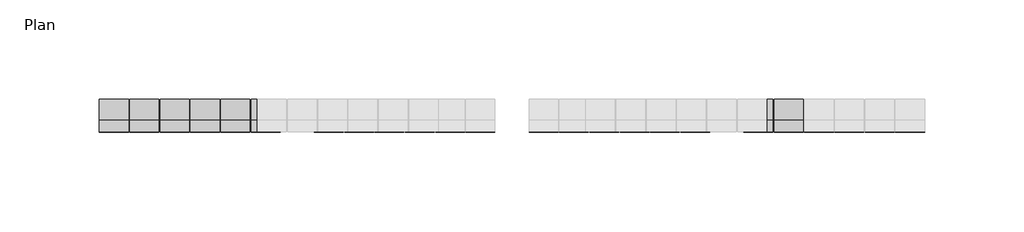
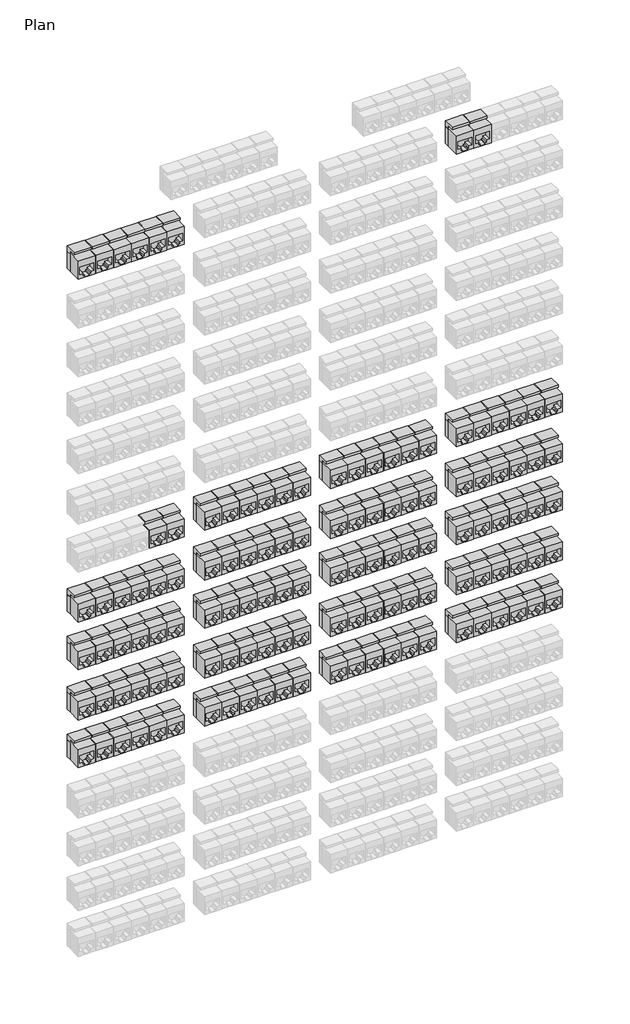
# One storey, part 2 of 3: 124 electric appliances.
"""IFC4 building model written with IfcOpenShell, lengths in millimetres."""

from ifc_helpers import new_model, si_unit, origin, place, context, project, spatial, transform, mapped, element, save
from components import cat_6_282648a7

model = new_model("IFC4")

# Units and contexts
model_context = context("Model", 3, world=origin())
ifc_project = project(units=[si_unit("LENGTHUNIT", "METRE", prefix="MILLI")], contexts=[model_context])

# Site, building, storey
site = spatial("IfcSite", under=ifc_project)
building = spatial("IfcBuilding", under=site)
storey = spatial("IfcBuildingStorey", under=building, Name="Plan", Elevation=0.0)

# Electric appliances
placement = place(None, origin())
cat_6_shape = cat_6_282648a7(model_context)
element("IfcElectricAppliance", 1, ObjectType="Data_Device-Network-Leviton-Connector-Copper-110_Style : CAT 6", at=placement, inside=storey, context=model_context, shape_type="MappedRepresentation", body=[
    mapped(cat_6_shape, transform((2653.114801, -458.5752001, 266.6170908), x_axis=(1.0, 0.0, 0.0), y_axis=(0.0, 0.0, 1.0), z_axis=(0.0, -1.0, 0.0))),
])
element("IfcElectricAppliance", 2, ObjectType="Data_Device-Network-Leviton-Connector-Copper-110_Style : CAT 6", at=placement, inside=storey, context=model_context, shape_type="MappedRepresentation", body=[
    mapped(cat_6_shape, transform((2668.354801, -458.5752001, 266.6170908), x_axis=(1.0, 0.0, 0.0), y_axis=(0.0, 0.0, 1.0), z_axis=(0.0, -1.0, 0.0))),
])
element("IfcElectricAppliance", 3, ObjectType="Data_Device-Network-Leviton-Connector-Copper-110_Style : CAT 6", at=placement, inside=storey, context=model_context, shape_type="MappedRepresentation", body=[
    mapped(cat_6_shape, transform((2700.104801, -458.5752001, 266.6170908), x_axis=(1.0, 0.0, 0.0), y_axis=(0.0, 0.0, 1.0), z_axis=(0.0, -1.0, 0.0))),
])
element("IfcElectricAppliance", 4, ObjectType="Data_Device-Network-Leviton-Connector-Copper-110_Style : CAT 6", at=placement, inside=storey, context=model_context, shape_type="MappedRepresentation", body=[
    mapped(cat_6_shape, transform((2715.344801, -458.5752001, 266.6170908), x_axis=(1.0, 0.0, 0.0), y_axis=(0.0, 0.0, 1.0), z_axis=(0.0, -1.0, 0.0))),
])
element("IfcElectricAppliance", 5, ObjectType="Data_Device-Network-Leviton-Connector-Copper-110_Style : CAT 6", at=placement, inside=storey, context=model_context, shape_type="MappedRepresentation", body=[
    mapped(cat_6_shape, transform((2730.584801, -458.5752001, 266.6170908), x_axis=(1.0, 0.0, 0.0), y_axis=(0.0, 0.0, 1.0), z_axis=(0.0, -1.0, 0.0))),
])
element("IfcElectricAppliance", 6, ObjectType="Data_Device-Network-Leviton-Connector-Copper-110_Style : CAT 6", at=placement, inside=storey, context=model_context, shape_type="MappedRepresentation", body=[
    mapped(cat_6_shape, transform((2745.824801, -458.5752001, 266.6170908), x_axis=(1.0, 0.0, 0.0), y_axis=(0.0, 0.0, 1.0), z_axis=(0.0, -1.0, 0.0))),
])
element("IfcElectricAppliance", 7, ObjectType="Data_Device-Network-Leviton-Connector-Copper-110_Style : CAT 6", at=placement, inside=storey, context=model_context, shape_type="MappedRepresentation", body=[
    mapped(cat_6_shape, transform((2761.064801, -458.5752001, 266.6170908), x_axis=(1.0, 0.0, 0.0), y_axis=(0.0, 0.0, 1.0), z_axis=(0.0, -1.0, 0.0))),
])
element("IfcElectricAppliance", 8, ObjectType="Data_Device-Network-Leviton-Connector-Copper-110_Style : CAT 6", at=placement, inside=storey, context=model_context, shape_type="MappedRepresentation", body=[
    mapped(cat_6_shape, transform((2776.304801, -458.5752001, 266.6170908), x_axis=(1.0, 0.0, 0.0), y_axis=(0.0, 0.0, 1.0), z_axis=(0.0, -1.0, 0.0))),
])
element("IfcElectricAppliance", 9, ObjectType="Data_Device-Network-Leviton-Connector-Copper-110_Style : CAT 6", at=placement, inside=storey, context=model_context, shape_type="MappedRepresentation", body=[
    mapped(cat_6_shape, transform((2808.054801, -458.5752001, 266.6170908), x_axis=(1.0, 0.0, 0.0), y_axis=(0.0, 0.0, 1.0), z_axis=(0.0, -1.0, 0.0))),
])
element("IfcElectricAppliance", 10, ObjectType="Data_Device-Network-Leviton-Connector-Copper-110_Style : CAT 6", at=placement, inside=storey, context=model_context, shape_type="MappedRepresentation", body=[
    mapped(cat_6_shape, transform((2838.534801, -458.5752001, 266.6170908), x_axis=(1.0, 0.0, 0.0), y_axis=(0.0, 0.0, 1.0), z_axis=(0.0, -1.0, 0.0))),
])
element("IfcElectricAppliance", 11, ObjectType="Data_Device-Network-Leviton-Connector-Copper-110_Style : CAT 6", at=placement, inside=storey, context=model_context, shape_type="MappedRepresentation", body=[
    mapped(cat_6_shape, transform((2853.774801, -458.5752001, 266.6170908), x_axis=(1.0, 0.0, 0.0), y_axis=(0.0, 0.0, 1.0), z_axis=(0.0, -1.0, 0.0))),
])
element("IfcElectricAppliance", 12, ObjectType="Data_Device-Network-Leviton-Connector-Copper-110_Style : CAT 6", at=placement, inside=storey, context=model_context, shape_type="MappedRepresentation", body=[
    mapped(cat_6_shape, transform((2869.014801, -458.5752001, 266.6170908), x_axis=(1.0, 0.0, 0.0), y_axis=(0.0, 0.0, 1.0), z_axis=(0.0, -1.0, 0.0))),
])
element("IfcElectricAppliance", 13, ObjectType="Data_Device-Network-Leviton-Connector-Copper-110_Style : CAT 6", at=placement, inside=storey, context=model_context, shape_type="MappedRepresentation", body=[
    mapped(cat_6_shape, transform((2884.254801, -458.5752001, 266.6170908), x_axis=(1.0, 0.0, 0.0), y_axis=(0.0, 0.0, 1.0), z_axis=(0.0, -1.0, 0.0))),
])
element("IfcElectricAppliance", 14, ObjectType="Data_Device-Network-Leviton-Connector-Copper-110_Style : CAT 6", at=placement, inside=storey, context=model_context, shape_type="MappedRepresentation", body=[
    mapped(cat_6_shape, transform((2916.004801, -458.5752001, 266.6170908), x_axis=(1.0, 0.0, 0.0), y_axis=(0.0, 0.0, 1.0), z_axis=(0.0, -1.0, 0.0))),
])
element("IfcElectricAppliance", 15, ObjectType="Data_Device-Network-Leviton-Connector-Copper-110_Style : CAT 6", at=placement, inside=storey, context=model_context, shape_type="MappedRepresentation", body=[
    mapped(cat_6_shape, transform((2931.244801, -458.5752001, 266.6170908), x_axis=(1.0, 0.0, 0.0), y_axis=(0.0, 0.0, 1.0), z_axis=(0.0, -1.0, 0.0))),
])
element("IfcElectricAppliance", 16, ObjectType="Data_Device-Network-Leviton-Connector-Copper-110_Style : CAT 6", at=placement, inside=storey, context=model_context, shape_type="MappedRepresentation", body=[
    mapped(cat_6_shape, transform((2946.484801, -458.5752001, 266.6170908), x_axis=(1.0, 0.0, 0.0), y_axis=(0.0, 0.0, 1.0), z_axis=(0.0, -1.0, 0.0))),
])
element("IfcElectricAppliance", 17, ObjectType="Data_Device-Network-Leviton-Connector-Copper-110_Style : CAT 6", at=placement, inside=storey, context=model_context, shape_type="MappedRepresentation", body=[
    mapped(cat_6_shape, transform((2961.724801, -458.5752001, 266.6170908), x_axis=(1.0, 0.0, 0.0), y_axis=(0.0, 0.0, 1.0), z_axis=(0.0, -1.0, 0.0))),
])
element("IfcElectricAppliance", 18, ObjectType="Data_Device-Network-Leviton-Connector-Copper-110_Style : CAT 6", at=placement, inside=storey, context=model_context, shape_type="MappedRepresentation", body=[
    mapped(cat_6_shape, transform((2976.964801, -458.5752001, 266.6170908), x_axis=(1.0, 0.0, 0.0), y_axis=(0.0, 0.0, 1.0), z_axis=(0.0, -1.0, 0.0))),
])
element("IfcElectricAppliance", 19, ObjectType="Data_Device-Network-Leviton-Connector-Copper-110_Style : CAT 6", at=placement, inside=storey, context=model_context, shape_type="MappedRepresentation", body=[
    mapped(cat_6_shape, transform((2992.204801, -458.5752001, 266.6170908), x_axis=(1.0, 0.0, 0.0), y_axis=(0.0, 0.0, 1.0), z_axis=(0.0, -1.0, 0.0))),
])
element("IfcElectricAppliance", 20, ObjectType="Data_Device-Network-Leviton-Connector-Copper-110_Style : CAT 6", at=placement, inside=storey, context=model_context, shape_type="MappedRepresentation", body=[
    mapped(cat_6_shape, transform((2823.294801, -458.5752001, 266.6170908), x_axis=(1.0, 0.0, 0.0), y_axis=(0.0, 0.0, 1.0), z_axis=(0.0, -1.0, 0.0))),
])
element("IfcElectricAppliance", 21, ObjectType="Data_Device-Network-Leviton-Connector-Copper-110_Style : CAT 6", at=placement, inside=storey, context=model_context, shape_type="MappedRepresentation", body=[
    mapped(cat_6_shape, transform((2592.154801, -458.5752001, 221.2038878), x_axis=(1.0, 0.0, 0.0), y_axis=(0.0, 0.0, 1.0), z_axis=(0.0, -1.0, 0.0))),
])
element("IfcElectricAppliance", 22, ObjectType="Data_Device-Network-Leviton-Connector-Copper-110_Style : CAT 6", at=placement, inside=storey, context=model_context, shape_type="MappedRepresentation", body=[
    mapped(cat_6_shape, transform((2607.394801, -458.5752001, 221.2038878), x_axis=(1.0, 0.0, 0.0), y_axis=(0.0, 0.0, 1.0), z_axis=(0.0, -1.0, 0.0))),
])
element("IfcElectricAppliance", 23, ObjectType="Data_Device-Network-Leviton-Connector-Copper-110_Style : CAT 6", at=placement, inside=storey, context=model_context, shape_type="MappedRepresentation", body=[
    mapped(cat_6_shape, transform((2622.634801, -458.5752001, 221.2038878), x_axis=(1.0, 0.0, 0.0), y_axis=(0.0, 0.0, 1.0), z_axis=(0.0, -1.0, 0.0))),
])
element("IfcElectricAppliance", 24, ObjectType="Data_Device-Network-Leviton-Connector-Copper-110_Style : CAT 6", at=placement, inside=storey, context=model_context, shape_type="MappedRepresentation", body=[
    mapped(cat_6_shape, transform((2637.874801, -458.5752001, 221.2038878), x_axis=(1.0, 0.0, 0.0), y_axis=(0.0, 0.0, 1.0), z_axis=(0.0, -1.0, 0.0))),
])
element("IfcElectricAppliance", 25, ObjectType="Data_Device-Network-Leviton-Connector-Copper-110_Style : CAT 6", at=placement, inside=storey, context=model_context, shape_type="MappedRepresentation", body=[
    mapped(cat_6_shape, transform((2653.114801, -458.5752001, 221.2038878), x_axis=(1.0, 0.0, 0.0), y_axis=(0.0, 0.0, 1.0), z_axis=(0.0, -1.0, 0.0))),
])
element("IfcElectricAppliance", 26, ObjectType="Data_Device-Network-Leviton-Connector-Copper-110_Style : CAT 6", at=placement, inside=storey, context=model_context, shape_type="MappedRepresentation", body=[
    mapped(cat_6_shape, transform((2668.354801, -458.5752001, 221.2038878), x_axis=(1.0, 0.0, 0.0), y_axis=(0.0, 0.0, 1.0), z_axis=(0.0, -1.0, 0.0))),
])
element("IfcElectricAppliance", 27, ObjectType="Data_Device-Network-Leviton-Connector-Copper-110_Style : CAT 6", at=placement, inside=storey, context=model_context, shape_type="MappedRepresentation", body=[
    mapped(cat_6_shape, transform((2916.004801, -458.5752001, 221.2038878), x_axis=(1.0, 0.0, 0.0), y_axis=(0.0, 0.0, 1.0), z_axis=(0.0, -1.0, 0.0))),
])
element("IfcElectricAppliance", 28, ObjectType="Data_Device-Network-Leviton-Connector-Copper-110_Style : CAT 6", at=placement, inside=storey, context=model_context, shape_type="MappedRepresentation", body=[
    mapped(cat_6_shape, transform((2931.244801, -458.5752001, 221.2038878), x_axis=(1.0, 0.0, 0.0), y_axis=(0.0, 0.0, 1.0), z_axis=(0.0, -1.0, 0.0))),
])
element("IfcElectricAppliance", 29, ObjectType="Data_Device-Network-Leviton-Connector-Copper-110_Style : CAT 6", at=placement, inside=storey, context=model_context, shape_type="MappedRepresentation", body=[
    mapped(cat_6_shape, transform((2946.484801, -458.5752001, 221.2038878), x_axis=(1.0, 0.0, 0.0), y_axis=(0.0, 0.0, 1.0), z_axis=(0.0, -1.0, 0.0))),
])
element("IfcElectricAppliance", 30, ObjectType="Data_Device-Network-Leviton-Connector-Copper-110_Style : CAT 6", at=placement, inside=storey, context=model_context, shape_type="MappedRepresentation", body=[
    mapped(cat_6_shape, transform((2961.724801, -458.5752001, 221.2038878), x_axis=(1.0, 0.0, 0.0), y_axis=(0.0, 0.0, 1.0), z_axis=(0.0, -1.0, 0.0))),
])
element("IfcElectricAppliance", 31, ObjectType="Data_Device-Network-Leviton-Connector-Copper-110_Style : CAT 6", at=placement, inside=storey, context=model_context, shape_type="MappedRepresentation", body=[
    mapped(cat_6_shape, transform((2976.964801, -458.5752001, 221.2038878), x_axis=(1.0, 0.0, 0.0), y_axis=(0.0, 0.0, 1.0), z_axis=(0.0, -1.0, 0.0))),
])
element("IfcElectricAppliance", 32, ObjectType="Data_Device-Network-Leviton-Connector-Copper-110_Style : CAT 6", at=placement, inside=storey, context=model_context, shape_type="MappedRepresentation", body=[
    mapped(cat_6_shape, transform((2992.204801, -458.5752001, 221.2038878), x_axis=(1.0, 0.0, 0.0), y_axis=(0.0, 0.0, 1.0), z_axis=(0.0, -1.0, 0.0))),
])
element("IfcElectricAppliance", 33, ObjectType="Data_Device-Network-Leviton-Connector-Copper-110_Style : CAT 6", at=placement, inside=storey, context=model_context, shape_type="MappedRepresentation", body=[
    mapped(cat_6_shape, transform((2700.104801, -458.5752001, 221.2038878), x_axis=(1.0, 0.0, 0.0), y_axis=(0.0, 0.0, 1.0), z_axis=(0.0, -1.0, 0.0))),
])
element("IfcElectricAppliance", 34, ObjectType="Data_Device-Network-Leviton-Connector-Copper-110_Style : CAT 6", at=placement, inside=storey, context=model_context, shape_type="MappedRepresentation", body=[
    mapped(cat_6_shape, transform((2715.344801, -458.5752001, 221.2038878), x_axis=(1.0, 0.0, 0.0), y_axis=(0.0, 0.0, 1.0), z_axis=(0.0, -1.0, 0.0))),
])
element("IfcElectricAppliance", 35, ObjectType="Data_Device-Network-Leviton-Connector-Copper-110_Style : CAT 6", at=placement, inside=storey, context=model_context, shape_type="MappedRepresentation", body=[
    mapped(cat_6_shape, transform((2730.584801, -458.5752001, 221.2038878), x_axis=(1.0, 0.0, 0.0), y_axis=(0.0, 0.0, 1.0), z_axis=(0.0, -1.0, 0.0))),
])
element("IfcElectricAppliance", 36, ObjectType="Data_Device-Network-Leviton-Connector-Copper-110_Style : CAT 6", at=placement, inside=storey, context=model_context, shape_type="MappedRepresentation", body=[
    mapped(cat_6_shape, transform((2745.824801, -458.5752001, 221.2038878), x_axis=(1.0, 0.0, 0.0), y_axis=(0.0, 0.0, 1.0), z_axis=(0.0, -1.0, 0.0))),
])
element("IfcElectricAppliance", 37, ObjectType="Data_Device-Network-Leviton-Connector-Copper-110_Style : CAT 6", at=placement, inside=storey, context=model_context, shape_type="MappedRepresentation", body=[
    mapped(cat_6_shape, transform((2761.064801, -458.5752001, 221.2038878), x_axis=(1.0, 0.0, 0.0), y_axis=(0.0, 0.0, 1.0), z_axis=(0.0, -1.0, 0.0))),
])
element("IfcElectricAppliance", 38, ObjectType="Data_Device-Network-Leviton-Connector-Copper-110_Style : CAT 6", at=placement, inside=storey, context=model_context, shape_type="MappedRepresentation", body=[
    mapped(cat_6_shape, transform((2776.304801, -458.5752001, 221.2038878), x_axis=(1.0, 0.0, 0.0), y_axis=(0.0, 0.0, 1.0), z_axis=(0.0, -1.0, 0.0))),
])
element("IfcElectricAppliance", 39, ObjectType="Data_Device-Network-Leviton-Connector-Copper-110_Style : CAT 6", at=placement, inside=storey, context=model_context, shape_type="MappedRepresentation", body=[
    mapped(cat_6_shape, transform((2808.054801, -458.5752001, 221.2038878), x_axis=(1.0, 0.0, 0.0), y_axis=(0.0, 0.0, 1.0), z_axis=(0.0, -1.0, 0.0))),
])
element("IfcElectricAppliance", 40, ObjectType="Data_Device-Network-Leviton-Connector-Copper-110_Style : CAT 6", at=placement, inside=storey, context=model_context, shape_type="MappedRepresentation", body=[
    mapped(cat_6_shape, transform((2823.294801, -458.5752001, 221.2038878), x_axis=(1.0, 0.0, 0.0), y_axis=(0.0, 0.0, 1.0), z_axis=(0.0, -1.0, 0.0))),
])
element("IfcElectricAppliance", 41, ObjectType="Data_Device-Network-Leviton-Connector-Copper-110_Style : CAT 6", at=placement, inside=storey, context=model_context, shape_type="MappedRepresentation", body=[
    mapped(cat_6_shape, transform((2838.534801, -458.5752001, 221.2038878), x_axis=(1.0, 0.0, 0.0), y_axis=(0.0, 0.0, 1.0), z_axis=(0.0, -1.0, 0.0))),
])
element("IfcElectricAppliance", 42, ObjectType="Data_Device-Network-Leviton-Connector-Copper-110_Style : CAT 6", at=placement, inside=storey, context=model_context, shape_type="MappedRepresentation", body=[
    mapped(cat_6_shape, transform((2853.774801, -458.5752001, 221.2038878), x_axis=(1.0, 0.0, 0.0), y_axis=(0.0, 0.0, 1.0), z_axis=(0.0, -1.0, 0.0))),
])
element("IfcElectricAppliance", 43, ObjectType="Data_Device-Network-Leviton-Connector-Copper-110_Style : CAT 6", at=placement, inside=storey, context=model_context, shape_type="MappedRepresentation", body=[
    mapped(cat_6_shape, transform((2869.014801, -458.5752001, 221.2038878), x_axis=(1.0, 0.0, 0.0), y_axis=(0.0, 0.0, 1.0), z_axis=(0.0, -1.0, 0.0))),
])
element("IfcElectricAppliance", 44, ObjectType="Data_Device-Network-Leviton-Connector-Copper-110_Style : CAT 6", at=placement, inside=storey, context=model_context, shape_type="MappedRepresentation", body=[
    mapped(cat_6_shape, transform((2884.254801, -458.5752001, 221.2038878), x_axis=(1.0, 0.0, 0.0), y_axis=(0.0, 0.0, 1.0), z_axis=(0.0, -1.0, 0.0))),
])
element("IfcElectricAppliance", 45, ObjectType="Data_Device-Network-Leviton-Connector-Copper-110_Style : CAT 6", at=placement, inside=storey, context=model_context, shape_type="MappedRepresentation", body=[
    mapped(cat_6_shape, transform((2592.154801, -458.5752001, 178.0238878), x_axis=(1.0, 0.0, 0.0), y_axis=(0.0, 0.0, 1.0), z_axis=(0.0, -1.0, 0.0))),
])
element("IfcElectricAppliance", 46, ObjectType="Data_Device-Network-Leviton-Connector-Copper-110_Style : CAT 6", at=placement, inside=storey, context=model_context, shape_type="MappedRepresentation", body=[
    mapped(cat_6_shape, transform((2607.394801, -458.5752001, 178.0238878), x_axis=(1.0, 0.0, 0.0), y_axis=(0.0, 0.0, 1.0), z_axis=(0.0, -1.0, 0.0))),
])
element("IfcElectricAppliance", 47, ObjectType="Data_Device-Network-Leviton-Connector-Copper-110_Style : CAT 6", at=placement, inside=storey, context=model_context, shape_type="MappedRepresentation", body=[
    mapped(cat_6_shape, transform((2622.634801, -458.5752001, 178.0238878), x_axis=(1.0, 0.0, 0.0), y_axis=(0.0, 0.0, 1.0), z_axis=(0.0, -1.0, 0.0))),
])
element("IfcElectricAppliance", 48, ObjectType="Data_Device-Network-Leviton-Connector-Copper-110_Style : CAT 6", at=placement, inside=storey, context=model_context, shape_type="MappedRepresentation", body=[
    mapped(cat_6_shape, transform((2637.874801, -458.5752001, 178.0238878), x_axis=(1.0, 0.0, 0.0), y_axis=(0.0, 0.0, 1.0), z_axis=(0.0, -1.0, 0.0))),
])
element("IfcElectricAppliance", 49, ObjectType="Data_Device-Network-Leviton-Connector-Copper-110_Style : CAT 6", at=placement, inside=storey, context=model_context, shape_type="MappedRepresentation", body=[
    mapped(cat_6_shape, transform((2653.114801, -458.5752001, 178.0238878), x_axis=(1.0, 0.0, 0.0), y_axis=(0.0, 0.0, 1.0), z_axis=(0.0, -1.0, 0.0))),
])
element("IfcElectricAppliance", 50, ObjectType="Data_Device-Network-Leviton-Connector-Copper-110_Style : CAT 6", at=placement, inside=storey, context=model_context, shape_type="MappedRepresentation", body=[
    mapped(cat_6_shape, transform((2668.354801, -458.5752001, 178.0238878), x_axis=(1.0, 0.0, 0.0), y_axis=(0.0, 0.0, 1.0), z_axis=(0.0, -1.0, 0.0))),
])
element("IfcElectricAppliance", 51, ObjectType="Data_Device-Network-Leviton-Connector-Copper-110_Style : CAT 6", at=placement, inside=storey, context=model_context, shape_type="MappedRepresentation", body=[
    mapped(cat_6_shape, transform((2700.104801, -458.5752001, 178.0238878), x_axis=(1.0, 0.0, 0.0), y_axis=(0.0, 0.0, 1.0), z_axis=(0.0, -1.0, 0.0))),
])
element("IfcElectricAppliance", 52, ObjectType="Data_Device-Network-Leviton-Connector-Copper-110_Style : CAT 6", at=placement, inside=storey, context=model_context, shape_type="MappedRepresentation", body=[
    mapped(cat_6_shape, transform((2715.344801, -458.5752001, 178.0238878), x_axis=(1.0, 0.0, 0.0), y_axis=(0.0, 0.0, 1.0), z_axis=(0.0, -1.0, 0.0))),
])
element("IfcElectricAppliance", 53, ObjectType="Data_Device-Network-Leviton-Connector-Copper-110_Style : CAT 6", at=placement, inside=storey, context=model_context, shape_type="MappedRepresentation", body=[
    mapped(cat_6_shape, transform((2730.584801, -458.5752001, 178.0238878), x_axis=(1.0, 0.0, 0.0), y_axis=(0.0, 0.0, 1.0), z_axis=(0.0, -1.0, 0.0))),
])
element("IfcElectricAppliance", 54, ObjectType="Data_Device-Network-Leviton-Connector-Copper-110_Style : CAT 6", at=placement, inside=storey, context=model_context, shape_type="MappedRepresentation", body=[
    mapped(cat_6_shape, transform((2745.824801, -458.5752001, 178.0238878), x_axis=(1.0, 0.0, 0.0), y_axis=(0.0, 0.0, 1.0), z_axis=(0.0, -1.0, 0.0))),
])
element("IfcElectricAppliance", 55, ObjectType="Data_Device-Network-Leviton-Connector-Copper-110_Style : CAT 6", at=placement, inside=storey, context=model_context, shape_type="MappedRepresentation", body=[
    mapped(cat_6_shape, transform((2761.064801, -458.5752001, 178.0238878), x_axis=(1.0, 0.0, 0.0), y_axis=(0.0, 0.0, 1.0), z_axis=(0.0, -1.0, 0.0))),
])
element("IfcElectricAppliance", 56, ObjectType="Data_Device-Network-Leviton-Connector-Copper-110_Style : CAT 6", at=placement, inside=storey, context=model_context, shape_type="MappedRepresentation", body=[
    mapped(cat_6_shape, transform((2776.304801, -458.5752001, 178.0238878), x_axis=(1.0, 0.0, 0.0), y_axis=(0.0, 0.0, 1.0), z_axis=(0.0, -1.0, 0.0))),
])
element("IfcElectricAppliance", 57, ObjectType="Data_Device-Network-Leviton-Connector-Copper-110_Style : CAT 6", at=placement, inside=storey, context=model_context, shape_type="MappedRepresentation", body=[
    mapped(cat_6_shape, transform((2808.054801, -458.5752001, 178.0238878), x_axis=(1.0, 0.0, 0.0), y_axis=(0.0, 0.0, 1.0), z_axis=(0.0, -1.0, 0.0))),
])
element("IfcElectricAppliance", 58, ObjectType="Data_Device-Network-Leviton-Connector-Copper-110_Style : CAT 6", at=placement, inside=storey, context=model_context, shape_type="MappedRepresentation", body=[
    mapped(cat_6_shape, transform((2838.534801, -458.5752001, 178.0238878), x_axis=(1.0, 0.0, 0.0), y_axis=(0.0, 0.0, 1.0), z_axis=(0.0, -1.0, 0.0))),
])
element("IfcElectricAppliance", 59, ObjectType="Data_Device-Network-Leviton-Connector-Copper-110_Style : CAT 6", at=placement, inside=storey, context=model_context, shape_type="MappedRepresentation", body=[
    mapped(cat_6_shape, transform((2853.774801, -458.5752001, 178.0238878), x_axis=(1.0, 0.0, 0.0), y_axis=(0.0, 0.0, 1.0), z_axis=(0.0, -1.0, 0.0))),
])
element("IfcElectricAppliance", 60, ObjectType="Data_Device-Network-Leviton-Connector-Copper-110_Style : CAT 6", at=placement, inside=storey, context=model_context, shape_type="MappedRepresentation", body=[
    mapped(cat_6_shape, transform((2869.014801, -458.5752001, 178.0238878), x_axis=(1.0, 0.0, 0.0), y_axis=(0.0, 0.0, 1.0), z_axis=(0.0, -1.0, 0.0))),
])
element("IfcElectricAppliance", 61, ObjectType="Data_Device-Network-Leviton-Connector-Copper-110_Style : CAT 6", at=placement, inside=storey, context=model_context, shape_type="MappedRepresentation", body=[
    mapped(cat_6_shape, transform((2884.254801, -458.5752001, 178.0238878), x_axis=(1.0, 0.0, 0.0), y_axis=(0.0, 0.0, 1.0), z_axis=(0.0, -1.0, 0.0))),
])
element("IfcElectricAppliance", 62, ObjectType="Data_Device-Network-Leviton-Connector-Copper-110_Style : CAT 6", at=placement, inside=storey, context=model_context, shape_type="MappedRepresentation", body=[
    mapped(cat_6_shape, transform((2916.004801, -458.5752001, 178.0238878), x_axis=(1.0, 0.0, 0.0), y_axis=(0.0, 0.0, 1.0), z_axis=(0.0, -1.0, 0.0))),
])
element("IfcElectricAppliance", 63, ObjectType="Data_Device-Network-Leviton-Connector-Copper-110_Style : CAT 6", at=placement, inside=storey, context=model_context, shape_type="MappedRepresentation", body=[
    mapped(cat_6_shape, transform((2931.244801, -458.5752001, 178.0238878), x_axis=(1.0, 0.0, 0.0), y_axis=(0.0, 0.0, 1.0), z_axis=(0.0, -1.0, 0.0))),
])
element("IfcElectricAppliance", 64, ObjectType="Data_Device-Network-Leviton-Connector-Copper-110_Style : CAT 6", at=placement, inside=storey, context=model_context, shape_type="MappedRepresentation", body=[
    mapped(cat_6_shape, transform((2946.484801, -458.5752001, 178.0238878), x_axis=(1.0, 0.0, 0.0), y_axis=(0.0, 0.0, 1.0), z_axis=(0.0, -1.0, 0.0))),
])
element("IfcElectricAppliance", 65, ObjectType="Data_Device-Network-Leviton-Connector-Copper-110_Style : CAT 6", at=placement, inside=storey, context=model_context, shape_type="MappedRepresentation", body=[
    mapped(cat_6_shape, transform((2961.724801, -458.5752001, 178.0238878), x_axis=(1.0, 0.0, 0.0), y_axis=(0.0, 0.0, 1.0), z_axis=(0.0, -1.0, 0.0))),
])
element("IfcElectricAppliance", 66, ObjectType="Data_Device-Network-Leviton-Connector-Copper-110_Style : CAT 6", at=placement, inside=storey, context=model_context, shape_type="MappedRepresentation", body=[
    mapped(cat_6_shape, transform((2976.964801, -458.5752001, 178.0238878), x_axis=(1.0, 0.0, 0.0), y_axis=(0.0, 0.0, 1.0), z_axis=(0.0, -1.0, 0.0))),
])
element("IfcElectricAppliance", 67, ObjectType="Data_Device-Network-Leviton-Connector-Copper-110_Style : CAT 6", at=placement, inside=storey, context=model_context, shape_type="MappedRepresentation", body=[
    mapped(cat_6_shape, transform((2992.204801, -458.5752001, 178.0238878), x_axis=(1.0, 0.0, 0.0), y_axis=(0.0, 0.0, 1.0), z_axis=(0.0, -1.0, 0.0))),
])
element("IfcElectricAppliance", 68, ObjectType="Data_Device-Network-Leviton-Connector-Copper-110_Style : CAT 6", at=placement, inside=storey, context=model_context, shape_type="MappedRepresentation", body=[
    mapped(cat_6_shape, transform((2823.294801, -458.5752001, 178.0238878), x_axis=(1.0, 0.0, 0.0), y_axis=(0.0, 0.0, 1.0), z_axis=(0.0, -1.0, 0.0))),
])
element("IfcElectricAppliance", 69, ObjectType="Data_Device-Network-Leviton-Connector-Copper-110_Style : CAT 6", at=placement, inside=storey, context=model_context, shape_type="MappedRepresentation", body=[
    mapped(cat_6_shape, transform((2592.154801, -458.5752001, 531.4969969), x_axis=(1.0, 0.0, 0.0), y_axis=(0.0, 0.0, 1.0), z_axis=(0.0, -1.0, 0.0))),
])
element("IfcElectricAppliance", 70, ObjectType="Data_Device-Network-Leviton-Connector-Copper-110_Style : CAT 6", at=placement, inside=storey, context=model_context, shape_type="MappedRepresentation", body=[
    mapped(cat_6_shape, transform((2607.394801, -458.5752001, 531.4969969), x_axis=(1.0, 0.0, 0.0), y_axis=(0.0, 0.0, 1.0), z_axis=(0.0, -1.0, 0.0))),
])
element("IfcElectricAppliance", 71, ObjectType="Data_Device-Network-Leviton-Connector-Copper-110_Style : CAT 6", at=placement, inside=storey, context=model_context, shape_type="MappedRepresentation", body=[
    mapped(cat_6_shape, transform((2622.634801, -458.5752001, 531.4969969), x_axis=(1.0, 0.0, 0.0), y_axis=(0.0, 0.0, 1.0), z_axis=(0.0, -1.0, 0.0))),
])
element("IfcElectricAppliance", 72, ObjectType="Data_Device-Network-Leviton-Connector-Copper-110_Style : CAT 6", at=placement, inside=storey, context=model_context, shape_type="MappedRepresentation", body=[
    mapped(cat_6_shape, transform((2637.874801, -458.5752001, 531.4969969), x_axis=(1.0, 0.0, 0.0), y_axis=(0.0, 0.0, 1.0), z_axis=(0.0, -1.0, 0.0))),
])
element("IfcElectricAppliance", 73, ObjectType="Data_Device-Network-Leviton-Connector-Copper-110_Style : CAT 6", at=placement, inside=storey, context=model_context, shape_type="MappedRepresentation", body=[
    mapped(cat_6_shape, transform((2653.114801, -458.5752001, 531.4969969), x_axis=(1.0, 0.0, 0.0), y_axis=(0.0, 0.0, 1.0), z_axis=(0.0, -1.0, 0.0))),
])
element("IfcElectricAppliance", 74, ObjectType="Data_Device-Network-Leviton-Connector-Copper-110_Style : CAT 6", at=placement, inside=storey, context=model_context, shape_type="MappedRepresentation", body=[
    mapped(cat_6_shape, transform((2668.354801, -458.5752001, 531.4969969), x_axis=(1.0, 0.0, 0.0), y_axis=(0.0, 0.0, 1.0), z_axis=(0.0, -1.0, 0.0))),
])
element("IfcElectricAppliance", 75, ObjectType="Data_Device-Network-Leviton-Connector-Copper-110_Style : CAT 6", at=placement, inside=storey, context=model_context, shape_type="MappedRepresentation", body=[
    mapped(cat_6_shape, transform((2916.004801, -458.5752001, 531.4969969), x_axis=(1.0, 0.0, 0.0), y_axis=(0.0, 0.0, 1.0), z_axis=(0.0, -1.0, 0.0))),
])
element("IfcElectricAppliance", 76, ObjectType="Data_Device-Network-Leviton-Connector-Copper-110_Style : CAT 6", at=placement, inside=storey, context=model_context, shape_type="MappedRepresentation", body=[
    mapped(cat_6_shape, transform((2931.244801, -458.5752001, 531.4969969), x_axis=(1.0, 0.0, 0.0), y_axis=(0.0, 0.0, 1.0), z_axis=(0.0, -1.0, 0.0))),
])
element("IfcElectricAppliance", 77, ObjectType="Data_Device-Network-Leviton-Connector-Copper-110_Style : CAT 6A", at=placement, inside=storey, context=model_context, shape_type="MappedRepresentation", body=[
    mapped(cat_6_shape, transform((2592.154801, -458.5752001, 132.6106847), x_axis=(1.0, 0.0, 0.0), y_axis=(0.0, 0.0, 1.0), z_axis=(0.0, -1.0, 0.0))),
])
element("IfcElectricAppliance", 78, ObjectType="Data_Device-Network-Leviton-Connector-Copper-110_Style : CAT 6A", at=placement, inside=storey, context=model_context, shape_type="MappedRepresentation", body=[
    mapped(cat_6_shape, transform((2607.394801, -458.5752001, 132.6106847), x_axis=(1.0, 0.0, 0.0), y_axis=(0.0, 0.0, 1.0), z_axis=(0.0, -1.0, 0.0))),
])
element("IfcElectricAppliance", 79, ObjectType="Data_Device-Network-Leviton-Connector-Copper-110_Style : CAT 6A", at=placement, inside=storey, context=model_context, shape_type="MappedRepresentation", body=[
    mapped(cat_6_shape, transform((2622.634801, -458.5752001, 132.6106847), x_axis=(1.0, 0.0, 0.0), y_axis=(0.0, 0.0, 1.0), z_axis=(0.0, -1.0, 0.0))),
])
element("IfcElectricAppliance", 80, ObjectType="Data_Device-Network-Leviton-Connector-Copper-110_Style : CAT 6A", at=placement, inside=storey, context=model_context, shape_type="MappedRepresentation", body=[
    mapped(cat_6_shape, transform((2637.874801, -458.5752001, 132.6106847), x_axis=(1.0, 0.0, 0.0), y_axis=(0.0, 0.0, 1.0), z_axis=(0.0, -1.0, 0.0))),
])
element("IfcElectricAppliance", 81, ObjectType="Data_Device-Network-Leviton-Connector-Copper-110_Style : CAT 6A", at=placement, inside=storey, context=model_context, shape_type="MappedRepresentation", body=[
    mapped(cat_6_shape, transform((2653.114801, -458.5752001, 132.6106847), x_axis=(1.0, 0.0, 0.0), y_axis=(0.0, 0.0, 1.0), z_axis=(0.0, -1.0, 0.0))),
])
element("IfcElectricAppliance", 82, ObjectType="Data_Device-Network-Leviton-Connector-Copper-110_Style : CAT 6A", at=placement, inside=storey, context=model_context, shape_type="MappedRepresentation", body=[
    mapped(cat_6_shape, transform((2668.354801, -458.5752001, 132.6106847), x_axis=(1.0, 0.0, 0.0), y_axis=(0.0, 0.0, 1.0), z_axis=(0.0, -1.0, 0.0))),
])
element("IfcElectricAppliance", 83, ObjectType="Data_Device-Network-Leviton-Connector-Copper-110_Style : CAT 6A", at=placement, inside=storey, context=model_context, shape_type="MappedRepresentation", body=[
    mapped(cat_6_shape, transform((2916.004801, -458.5752001, 132.6106847), x_axis=(1.0, 0.0, 0.0), y_axis=(0.0, 0.0, 1.0), z_axis=(0.0, -1.0, 0.0))),
])
element("IfcElectricAppliance", 84, ObjectType="Data_Device-Network-Leviton-Connector-Copper-110_Style : CAT 6A", at=placement, inside=storey, context=model_context, shape_type="MappedRepresentation", body=[
    mapped(cat_6_shape, transform((2931.244801, -458.5752001, 132.6106847), x_axis=(1.0, 0.0, 0.0), y_axis=(0.0, 0.0, 1.0), z_axis=(0.0, -1.0, 0.0))),
])
element("IfcElectricAppliance", 85, ObjectType="Data_Device-Network-Leviton-Connector-Copper-110_Style : CAT 6A", at=placement, inside=storey, context=model_context, shape_type="MappedRepresentation", body=[
    mapped(cat_6_shape, transform((2946.484801, -458.5752001, 132.6106847), x_axis=(1.0, 0.0, 0.0), y_axis=(0.0, 0.0, 1.0), z_axis=(0.0, -1.0, 0.0))),
])
element("IfcElectricAppliance", 86, ObjectType="Data_Device-Network-Leviton-Connector-Copper-110_Style : CAT 6A", at=placement, inside=storey, context=model_context, shape_type="MappedRepresentation", body=[
    mapped(cat_6_shape, transform((2961.724801, -458.5752001, 132.6106847), x_axis=(1.0, 0.0, 0.0), y_axis=(0.0, 0.0, 1.0), z_axis=(0.0, -1.0, 0.0))),
])
element("IfcElectricAppliance", 87, ObjectType="Data_Device-Network-Leviton-Connector-Copper-110_Style : CAT 6A", at=placement, inside=storey, context=model_context, shape_type="MappedRepresentation", body=[
    mapped(cat_6_shape, transform((2976.964801, -458.5752001, 132.6106847), x_axis=(1.0, 0.0, 0.0), y_axis=(0.0, 0.0, 1.0), z_axis=(0.0, -1.0, 0.0))),
])
element("IfcElectricAppliance", 88, ObjectType="Data_Device-Network-Leviton-Connector-Copper-110_Style : CAT 6A", at=placement, inside=storey, context=model_context, shape_type="MappedRepresentation", body=[
    mapped(cat_6_shape, transform((2992.204801, -458.5752001, 132.6106847), x_axis=(1.0, 0.0, 0.0), y_axis=(0.0, 0.0, 1.0), z_axis=(0.0, -1.0, 0.0))),
])
element("IfcElectricAppliance", 89, ObjectType="Data_Device-Network-Leviton-Connector-Copper-110_Style : CAT 6A", at=placement, inside=storey, context=model_context, shape_type="MappedRepresentation", body=[
    mapped(cat_6_shape, transform((2700.104801, -458.5752001, 132.6106847), x_axis=(1.0, 0.0, 0.0), y_axis=(0.0, 0.0, 1.0), z_axis=(0.0, -1.0, 0.0))),
])
element("IfcElectricAppliance", 90, ObjectType="Data_Device-Network-Leviton-Connector-Copper-110_Style : CAT 6A", at=placement, inside=storey, context=model_context, shape_type="MappedRepresentation", body=[
    mapped(cat_6_shape, transform((2715.344801, -458.5752001, 132.6106847), x_axis=(1.0, 0.0, 0.0), y_axis=(0.0, 0.0, 1.0), z_axis=(0.0, -1.0, 0.0))),
])
element("IfcElectricAppliance", 91, ObjectType="Data_Device-Network-Leviton-Connector-Copper-110_Style : CAT 6A", at=placement, inside=storey, context=model_context, shape_type="MappedRepresentation", body=[
    mapped(cat_6_shape, transform((2730.584801, -458.5752001, 132.6106847), x_axis=(1.0, 0.0, 0.0), y_axis=(0.0, 0.0, 1.0), z_axis=(0.0, -1.0, 0.0))),
])
element("IfcElectricAppliance", 92, ObjectType="Data_Device-Network-Leviton-Connector-Copper-110_Style : CAT 6A", at=placement, inside=storey, context=model_context, shape_type="MappedRepresentation", body=[
    mapped(cat_6_shape, transform((2745.824801, -458.5752001, 132.6106847), x_axis=(1.0, 0.0, 0.0), y_axis=(0.0, 0.0, 1.0), z_axis=(0.0, -1.0, 0.0))),
])
element("IfcElectricAppliance", 93, ObjectType="Data_Device-Network-Leviton-Connector-Copper-110_Style : CAT 6A", at=placement, inside=storey, context=model_context, shape_type="MappedRepresentation", body=[
    mapped(cat_6_shape, transform((2761.064801, -458.5752001, 132.6106847), x_axis=(1.0, 0.0, 0.0), y_axis=(0.0, 0.0, 1.0), z_axis=(0.0, -1.0, 0.0))),
])
element("IfcElectricAppliance", 94, ObjectType="Data_Device-Network-Leviton-Connector-Copper-110_Style : CAT 6A", at=placement, inside=storey, context=model_context, shape_type="MappedRepresentation", body=[
    mapped(cat_6_shape, transform((2776.304801, -458.5752001, 132.6106847), x_axis=(1.0, 0.0, 0.0), y_axis=(0.0, 0.0, 1.0), z_axis=(0.0, -1.0, 0.0))),
])
element("IfcElectricAppliance", 95, ObjectType="Data_Device-Network-Leviton-Connector-Copper-110_Style : CAT 6A", at=placement, inside=storey, context=model_context, shape_type="MappedRepresentation", body=[
    mapped(cat_6_shape, transform((2808.054801, -458.5752001, 132.6106847), x_axis=(1.0, 0.0, 0.0), y_axis=(0.0, 0.0, 1.0), z_axis=(0.0, -1.0, 0.0))),
])
element("IfcElectricAppliance", 96, ObjectType="Data_Device-Network-Leviton-Connector-Copper-110_Style : CAT 6A", at=placement, inside=storey, context=model_context, shape_type="MappedRepresentation", body=[
    mapped(cat_6_shape, transform((2823.294801, -458.5752001, 132.6106847), x_axis=(1.0, 0.0, 0.0), y_axis=(0.0, 0.0, 1.0), z_axis=(0.0, -1.0, 0.0))),
])
element("IfcElectricAppliance", 97, ObjectType="Data_Device-Network-Leviton-Connector-Copper-110_Style : CAT 6A", at=placement, inside=storey, context=model_context, shape_type="MappedRepresentation", body=[
    mapped(cat_6_shape, transform((2838.534801, -458.5752001, 132.6106847), x_axis=(1.0, 0.0, 0.0), y_axis=(0.0, 0.0, 1.0), z_axis=(0.0, -1.0, 0.0))),
])
element("IfcElectricAppliance", 98, ObjectType="Data_Device-Network-Leviton-Connector-Copper-110_Style : CAT 6A", at=placement, inside=storey, context=model_context, shape_type="MappedRepresentation", body=[
    mapped(cat_6_shape, transform((2853.774801, -458.5752001, 132.6106847), x_axis=(1.0, 0.0, 0.0), y_axis=(0.0, 0.0, 1.0), z_axis=(0.0, -1.0, 0.0))),
])
element("IfcElectricAppliance", 99, ObjectType="Data_Device-Network-Leviton-Connector-Copper-110_Style : CAT 6A", at=placement, inside=storey, context=model_context, shape_type="MappedRepresentation", body=[
    mapped(cat_6_shape, transform((2869.014801, -458.5752001, 132.6106847), x_axis=(1.0, 0.0, 0.0), y_axis=(0.0, 0.0, 1.0), z_axis=(0.0, -1.0, 0.0))),
])
element("IfcElectricAppliance", 100, ObjectType="Data_Device-Network-Leviton-Connector-Copper-110_Style : CAT 6A", at=placement, inside=storey, context=model_context, shape_type="MappedRepresentation", body=[
    mapped(cat_6_shape, transform((2884.254801, -458.5752001, 132.6106847), x_axis=(1.0, 0.0, 0.0), y_axis=(0.0, 0.0, 1.0), z_axis=(0.0, -1.0, 0.0))),
])
element("IfcElectricAppliance", 101, ObjectType="Data_Device-Network-Leviton-Connector-Copper-110_Style : CAT 6A", at=placement, inside=storey, context=model_context, shape_type="MappedRepresentation", body=[
    mapped(cat_6_shape, transform((2592.154801, -458.5752001, 89.4306847), x_axis=(1.0, 0.0, 0.0), y_axis=(0.0, 0.0, 1.0), z_axis=(0.0, -1.0, 0.0))),
])
element("IfcElectricAppliance", 102, ObjectType="Data_Device-Network-Leviton-Connector-Copper-110_Style : CAT 6A", at=placement, inside=storey, context=model_context, shape_type="MappedRepresentation", body=[
    mapped(cat_6_shape, transform((2607.394801, -458.5752001, 89.4306847), x_axis=(1.0, 0.0, 0.0), y_axis=(0.0, 0.0, 1.0), z_axis=(0.0, -1.0, 0.0))),
])
element("IfcElectricAppliance", 103, ObjectType="Data_Device-Network-Leviton-Connector-Copper-110_Style : CAT 6A", at=placement, inside=storey, context=model_context, shape_type="MappedRepresentation", body=[
    mapped(cat_6_shape, transform((2622.634801, -458.5752001, 89.4306847), x_axis=(1.0, 0.0, 0.0), y_axis=(0.0, 0.0, 1.0), z_axis=(0.0, -1.0, 0.0))),
])
element("IfcElectricAppliance", 104, ObjectType="Data_Device-Network-Leviton-Connector-Copper-110_Style : CAT 6A", at=placement, inside=storey, context=model_context, shape_type="MappedRepresentation", body=[
    mapped(cat_6_shape, transform((2637.874801, -458.5752001, 89.4306847), x_axis=(1.0, 0.0, 0.0), y_axis=(0.0, 0.0, 1.0), z_axis=(0.0, -1.0, 0.0))),
])
element("IfcElectricAppliance", 105, ObjectType="Data_Device-Network-Leviton-Connector-Copper-110_Style : CAT 6A", at=placement, inside=storey, context=model_context, shape_type="MappedRepresentation", body=[
    mapped(cat_6_shape, transform((2653.114801, -458.5752001, 89.4306847), x_axis=(1.0, 0.0, 0.0), y_axis=(0.0, 0.0, 1.0), z_axis=(0.0, -1.0, 0.0))),
])
element("IfcElectricAppliance", 106, ObjectType="Data_Device-Network-Leviton-Connector-Copper-110_Style : CAT 6A", at=placement, inside=storey, context=model_context, shape_type="MappedRepresentation", body=[
    mapped(cat_6_shape, transform((2668.354801, -458.5752001, 89.4306847), x_axis=(1.0, 0.0, 0.0), y_axis=(0.0, 0.0, 1.0), z_axis=(0.0, -1.0, 0.0))),
])
element("IfcElectricAppliance", 107, ObjectType="Data_Device-Network-Leviton-Connector-Copper-110_Style : CAT 6A", at=placement, inside=storey, context=model_context, shape_type="MappedRepresentation", body=[
    mapped(cat_6_shape, transform((2700.104801, -458.5752001, 89.4306847), x_axis=(1.0, 0.0, 0.0), y_axis=(0.0, 0.0, 1.0), z_axis=(0.0, -1.0, 0.0))),
])
element("IfcElectricAppliance", 108, ObjectType="Data_Device-Network-Leviton-Connector-Copper-110_Style : CAT 6A", at=placement, inside=storey, context=model_context, shape_type="MappedRepresentation", body=[
    mapped(cat_6_shape, transform((2715.344801, -458.5752001, 89.4306847), x_axis=(1.0, 0.0, 0.0), y_axis=(0.0, 0.0, 1.0), z_axis=(0.0, -1.0, 0.0))),
])
element("IfcElectricAppliance", 109, ObjectType="Data_Device-Network-Leviton-Connector-Copper-110_Style : CAT 6A", at=placement, inside=storey, context=model_context, shape_type="MappedRepresentation", body=[
    mapped(cat_6_shape, transform((2730.584801, -458.5752001, 89.4306847), x_axis=(1.0, 0.0, 0.0), y_axis=(0.0, 0.0, 1.0), z_axis=(0.0, -1.0, 0.0))),
])
element("IfcElectricAppliance", 110, ObjectType="Data_Device-Network-Leviton-Connector-Copper-110_Style : CAT 6A", at=placement, inside=storey, context=model_context, shape_type="MappedRepresentation", body=[
    mapped(cat_6_shape, transform((2745.824801, -458.5752001, 89.4306847), x_axis=(1.0, 0.0, 0.0), y_axis=(0.0, 0.0, 1.0), z_axis=(0.0, -1.0, 0.0))),
])
element("IfcElectricAppliance", 111, ObjectType="Data_Device-Network-Leviton-Connector-Copper-110_Style : CAT 6A", at=placement, inside=storey, context=model_context, shape_type="MappedRepresentation", body=[
    mapped(cat_6_shape, transform((2761.064801, -458.5752001, 89.4306847), x_axis=(1.0, 0.0, 0.0), y_axis=(0.0, 0.0, 1.0), z_axis=(0.0, -1.0, 0.0))),
])
element("IfcElectricAppliance", 112, ObjectType="Data_Device-Network-Leviton-Connector-Copper-110_Style : CAT 6A", at=placement, inside=storey, context=model_context, shape_type="MappedRepresentation", body=[
    mapped(cat_6_shape, transform((2776.304801, -458.5752001, 89.4306847), x_axis=(1.0, 0.0, 0.0), y_axis=(0.0, 0.0, 1.0), z_axis=(0.0, -1.0, 0.0))),
])
element("IfcElectricAppliance", 113, ObjectType="Data_Device-Network-Leviton-Connector-Copper-110_Style : CAT 6A", at=placement, inside=storey, context=model_context, shape_type="MappedRepresentation", body=[
    mapped(cat_6_shape, transform((2808.054801, -458.5752001, 89.4306847), x_axis=(1.0, 0.0, 0.0), y_axis=(0.0, 0.0, 1.0), z_axis=(0.0, -1.0, 0.0))),
])
element("IfcElectricAppliance", 114, ObjectType="Data_Device-Network-Leviton-Connector-Copper-110_Style : CAT 6A", at=placement, inside=storey, context=model_context, shape_type="MappedRepresentation", body=[
    mapped(cat_6_shape, transform((2838.534801, -458.5752001, 89.4306847), x_axis=(1.0, 0.0, 0.0), y_axis=(0.0, 0.0, 1.0), z_axis=(0.0, -1.0, 0.0))),
])
element("IfcElectricAppliance", 115, ObjectType="Data_Device-Network-Leviton-Connector-Copper-110_Style : CAT 6A", at=placement, inside=storey, context=model_context, shape_type="MappedRepresentation", body=[
    mapped(cat_6_shape, transform((2853.774801, -458.5752001, 89.4306847), x_axis=(1.0, 0.0, 0.0), y_axis=(0.0, 0.0, 1.0), z_axis=(0.0, -1.0, 0.0))),
])
element("IfcElectricAppliance", 116, ObjectType="Data_Device-Network-Leviton-Connector-Copper-110_Style : CAT 6A", at=placement, inside=storey, context=model_context, shape_type="MappedRepresentation", body=[
    mapped(cat_6_shape, transform((2869.014801, -458.5752001, 89.4306847), x_axis=(1.0, 0.0, 0.0), y_axis=(0.0, 0.0, 1.0), z_axis=(0.0, -1.0, 0.0))),
])
element("IfcElectricAppliance", 117, ObjectType="Data_Device-Network-Leviton-Connector-Copper-110_Style : CAT 6A", at=placement, inside=storey, context=model_context, shape_type="MappedRepresentation", body=[
    mapped(cat_6_shape, transform((2884.254801, -458.5752001, 89.4306847), x_axis=(1.0, 0.0, 0.0), y_axis=(0.0, 0.0, 1.0), z_axis=(0.0, -1.0, 0.0))),
])
element("IfcElectricAppliance", 118, ObjectType="Data_Device-Network-Leviton-Connector-Copper-110_Style : CAT 6A", at=placement, inside=storey, context=model_context, shape_type="MappedRepresentation", body=[
    mapped(cat_6_shape, transform((2916.004801, -458.5752001, 89.4306847), x_axis=(1.0, 0.0, 0.0), y_axis=(0.0, 0.0, 1.0), z_axis=(0.0, -1.0, 0.0))),
])
element("IfcElectricAppliance", 119, ObjectType="Data_Device-Network-Leviton-Connector-Copper-110_Style : CAT 6A", at=placement, inside=storey, context=model_context, shape_type="MappedRepresentation", body=[
    mapped(cat_6_shape, transform((2931.244801, -458.5752001, 89.4306847), x_axis=(1.0, 0.0, 0.0), y_axis=(0.0, 0.0, 1.0), z_axis=(0.0, -1.0, 0.0))),
])
element("IfcElectricAppliance", 120, ObjectType="Data_Device-Network-Leviton-Connector-Copper-110_Style : CAT 6A", at=placement, inside=storey, context=model_context, shape_type="MappedRepresentation", body=[
    mapped(cat_6_shape, transform((2946.484801, -458.5752001, 89.4306847), x_axis=(1.0, 0.0, 0.0), y_axis=(0.0, 0.0, 1.0), z_axis=(0.0, -1.0, 0.0))),
])
element("IfcElectricAppliance", 121, ObjectType="Data_Device-Network-Leviton-Connector-Copper-110_Style : CAT 6A", at=placement, inside=storey, context=model_context, shape_type="MappedRepresentation", body=[
    mapped(cat_6_shape, transform((2961.724801, -458.5752001, 89.4306847), x_axis=(1.0, 0.0, 0.0), y_axis=(0.0, 0.0, 1.0), z_axis=(0.0, -1.0, 0.0))),
])
element("IfcElectricAppliance", 122, ObjectType="Data_Device-Network-Leviton-Connector-Copper-110_Style : CAT 6A", at=placement, inside=storey, context=model_context, shape_type="MappedRepresentation", body=[
    mapped(cat_6_shape, transform((2976.964801, -458.5752001, 89.4306847), x_axis=(1.0, 0.0, 0.0), y_axis=(0.0, 0.0, 1.0), z_axis=(0.0, -1.0, 0.0))),
])
element("IfcElectricAppliance", 123, ObjectType="Data_Device-Network-Leviton-Connector-Copper-110_Style : CAT 6A", at=placement, inside=storey, context=model_context, shape_type="MappedRepresentation", body=[
    mapped(cat_6_shape, transform((2992.204801, -458.5752001, 89.4306847), x_axis=(1.0, 0.0, 0.0), y_axis=(0.0, 0.0, 1.0), z_axis=(0.0, -1.0, 0.0))),
])
element("IfcElectricAppliance", 124, ObjectType="Data_Device-Network-Leviton-Connector-Copper-110_Style : CAT 6A", at=placement, inside=storey, context=model_context, shape_type="MappedRepresentation", body=[
    mapped(cat_6_shape, transform((2823.294801, -458.5752001, 89.4306847), x_axis=(1.0, 0.0, 0.0), y_axis=(0.0, 0.0, 1.0), z_axis=(0.0, -1.0, 0.0))),
])

save(model, "model.ifc")
